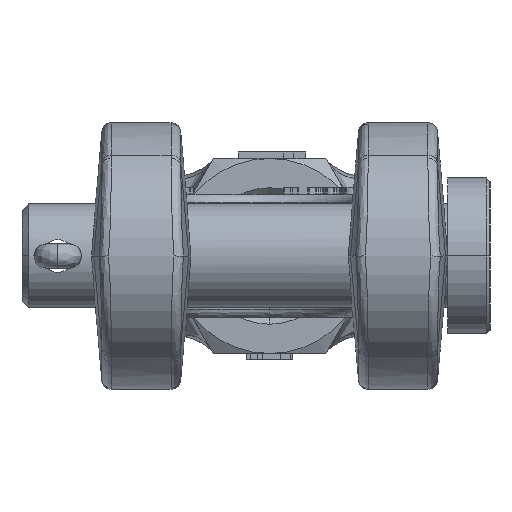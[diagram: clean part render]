
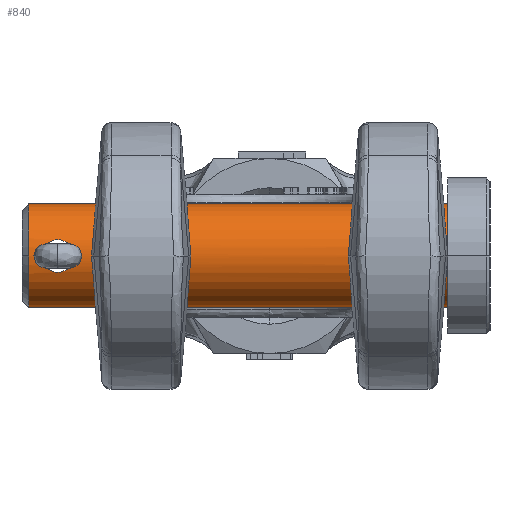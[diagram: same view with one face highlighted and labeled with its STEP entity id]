
A CAD part, left-side view. The second image highlights one B-rep face of the part: STEP entity #840.
In plain terms, the highlighted cylindrical face has radius 8 mm (diameter 16 mm), a partial arc.
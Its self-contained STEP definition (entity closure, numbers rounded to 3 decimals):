
#840=ADVANCED_FACE('',(#2594,#2595),#2596,.T.);
#2594=FACE_BOUND('',#22210,.T.);
#2595=FACE_OUTER_BOUND('',#22211,.T.);
#2596=CYLINDRICAL_SURFACE('',#22212,8.0);
#22210=EDGE_LOOP('',(#35843,#35844,#35845));
#22211=EDGE_LOOP('',(#35846,#35847,#35848,#35849,#35850));
#22212=AXIS2_PLACEMENT_3D('',#35851,#35852,#35853);
#35843=ORIENTED_EDGE('',*,*,#40081,.F.);
#35844=ORIENTED_EDGE('',*,*,#40082,.F.);
#35845=ORIENTED_EDGE('',*,*,#40077,.F.);
#35846=ORIENTED_EDGE('',*,*,#40083,.F.);
#35847=ORIENTED_EDGE('',*,*,#40084,.F.);
#35848=ORIENTED_EDGE('',*,*,#40085,.F.);
#35849=ORIENTED_EDGE('',*,*,#40086,.F.);
#35850=ORIENTED_EDGE('',*,*,#40075,.F.);
#35851=CARTESIAN_POINT('',(-92.144,87.839,150.985));
#35852=DIRECTION('',(0.0,-1.0,0.0));
#35853=DIRECTION('',(0.0,0.0,-1.0));
#40075=EDGE_CURVE('',#43776,#43770,#43778,.T.);
#40077=EDGE_CURVE('',#43779,#43782,#43783,.T.);
#40081=EDGE_CURVE('',#43789,#43779,#43790,.T.);
#40082=EDGE_CURVE('',#43782,#43789,#43791,.T.);
#40083=EDGE_CURVE('',#43792,#43776,#43793,.T.);
#40084=EDGE_CURVE('',#43794,#43792,#43795,.T.);
#40085=EDGE_CURVE('',#43796,#43794,#43797,.T.);
#40086=EDGE_CURVE('',#43770,#43796,#43798,.T.);
#43770=VERTEX_POINT('',#57047);
#43776=VERTEX_POINT('',#57055);
#43778=CIRCLE('',#57057,8.0);
#43779=VERTEX_POINT('',#57058);
#43782=VERTEX_POINT('',#57062);
#43783=B_SPLINE_CURVE_WITH_KNOTS('',3,(#57063,#57064,#57065,#57066,#57067,#57068,#57069,#57070,#57071,#57072,#57073,#57074,#57075,#57076,#57077,#57078,#57079,#57080,#57081,#57082,#57083,#57084,#57085,#57086,#57087,#57088,#57089,#57090,#57091,#57092,#57093,#57094),.UNSPECIFIED.,.F.,.F.,(4,2,2,2,2,2,2,2,2,2,2,2,2,2,2,4),(0.004,0.004,0.004,0.005,0.005,0.006,0.007,0.007,0.008,0.008,0.009,0.009,0.01,0.011,0.011,0.012),.UNSPECIFIED.);
#43789=VERTEX_POINT('',#57133);
#43790=B_SPLINE_CURVE_WITH_KNOTS('',3,(#57134,#57135,#57136,#57137,#57138,#57139,#57140,#57141,#57142,#57143,#57144,#57145,#57146,#57147,#57148,#57149),.UNSPECIFIED.,.F.,.F.,(4,2,2,2,2,2,2,4),(0.,0.,0.001,0.001,0.002,0.003,0.003,0.004),.UNSPECIFIED.);
#43791=B_SPLINE_CURVE_WITH_KNOTS('',3,(#57150,#57151,#57152,#57153,#57154,#57155,#57156,#57157,#57158,#57159,#57160,#57161,#57162,#57163,#57164,#57165,#57166,#57167),.UNSPECIFIED.,.F.,.F.,(4,2,2,2,2,2,2,2,4),(0.012,0.012,0.012,0.013,0.013,0.014,0.015,0.015,0.016),.UNSPECIFIED.);
#43792=VERTEX_POINT('',#57168);
#43793=LINE('',#57169,#57170);
#43794=VERTEX_POINT('',#57171);
#43795=CIRCLE('',#57172,8.0);
#43796=VERTEX_POINT('',#57173);
#43797=LINE('',#57174,#57175);
#43798=CIRCLE('',#57176,8.0);
#57047=CARTESIAN_POINT('',(-100.144,152.339,150.985));
#57055=CARTESIAN_POINT('',(-92.144,152.339,142.985));
#57057=AXIS2_PLACEMENT_3D('',#64992,#64993,#64994);
#57058=CARTESIAN_POINT('',(-99.744,147.839,148.485));
#57062=CARTESIAN_POINT('',(-99.744,147.839,153.485));
#57063=CARTESIAN_POINT('',(-99.744,147.839,148.485));
#57064=CARTESIAN_POINT('',(-99.744,147.839,148.485));
#57065=CARTESIAN_POINT('',(-99.744,147.839,148.485));
#57066=CARTESIAN_POINT('',(-99.744,147.673,148.485));
#57067=CARTESIAN_POINT('',(-99.749,147.509,148.502));
#57068=CARTESIAN_POINT('',(-99.77,147.189,148.566));
#57069=CARTESIAN_POINT('',(-99.785,147.029,148.614));
#57070=CARTESIAN_POINT('',(-99.823,146.727,148.74));
#57071=CARTESIAN_POINT('',(-99.845,146.584,148.817));
#57072=CARTESIAN_POINT('',(-99.894,146.313,148.998));
#57073=CARTESIAN_POINT('',(-99.921,146.186,149.103));
#57074=CARTESIAN_POINT('',(-99.998,145.843,149.446));
#57075=CARTESIAN_POINT('',(-100.05,145.657,149.723));
#57076=CARTESIAN_POINT('',(-100.104,145.469,150.173));
#57077=CARTESIAN_POINT('',(-100.119,145.42,150.331));
#57078=CARTESIAN_POINT('',(-100.139,145.355,150.655));
#57079=CARTESIAN_POINT('',(-100.144,145.339,150.819));
#57080=CARTESIAN_POINT('',(-100.144,145.339,151.152));
#57081=CARTESIAN_POINT('',(-100.139,145.355,151.315));
#57082=CARTESIAN_POINT('',(-100.12,145.419,151.636));
#57083=CARTESIAN_POINT('',(-100.105,145.468,151.795));
#57084=CARTESIAN_POINT('',(-100.068,145.594,152.097));
#57085=CARTESIAN_POINT('',(-100.047,145.671,152.24));
#57086=CARTESIAN_POINT('',(-99.999,145.852,152.511));
#57087=CARTESIAN_POINT('',(-99.973,145.957,152.638));
#57088=CARTESIAN_POINT('',(-99.895,146.3,152.982));
#57089=CARTESIAN_POINT('',(-99.842,146.577,153.168));
#57090=CARTESIAN_POINT('',(-99.786,147.027,153.355));
#57091=CARTESIAN_POINT('',(-99.77,147.185,153.404));
#57092=CARTESIAN_POINT('',(-99.749,147.509,153.469));
#57093=CARTESIAN_POINT('',(-99.744,147.673,153.485));
#57094=CARTESIAN_POINT('',(-99.744,147.839,153.485));
#57133=CARTESIAN_POINT('',(-100.144,150.339,150.985));
#57134=CARTESIAN_POINT('',(-100.144,150.339,150.985));
#57135=CARTESIAN_POINT('',(-100.144,150.339,150.819));
#57136=CARTESIAN_POINT('',(-100.139,150.323,150.656));
#57137=CARTESIAN_POINT('',(-100.12,150.258,150.335));
#57138=CARTESIAN_POINT('',(-100.105,150.21,150.176));
#57139=CARTESIAN_POINT('',(-100.068,150.084,149.874));
#57140=CARTESIAN_POINT('',(-100.047,150.007,149.73));
#57141=CARTESIAN_POINT('',(-99.999,149.826,149.46));
#57142=CARTESIAN_POINT('',(-99.973,149.721,149.332));
#57143=CARTESIAN_POINT('',(-99.895,149.378,148.989));
#57144=CARTESIAN_POINT('',(-99.842,149.101,148.803));
#57145=CARTESIAN_POINT('',(-99.786,148.651,148.615));
#57146=CARTESIAN_POINT('',(-99.77,148.493,148.567));
#57147=CARTESIAN_POINT('',(-99.749,148.169,148.502));
#57148=CARTESIAN_POINT('',(-99.744,148.005,148.485));
#57149=CARTESIAN_POINT('',(-99.744,147.839,148.485));
#57150=CARTESIAN_POINT('',(-99.744,147.839,153.485));
#57151=CARTESIAN_POINT('',(-99.744,147.839,153.485));
#57152=CARTESIAN_POINT('',(-99.744,147.839,153.485));
#57153=CARTESIAN_POINT('',(-99.744,148.005,153.485));
#57154=CARTESIAN_POINT('',(-99.749,148.168,153.469));
#57155=CARTESIAN_POINT('',(-99.77,148.489,153.405));
#57156=CARTESIAN_POINT('',(-99.785,148.648,153.356));
#57157=CARTESIAN_POINT('',(-99.823,148.95,153.231));
#57158=CARTESIAN_POINT('',(-99.845,149.094,153.154));
#57159=CARTESIAN_POINT('',(-99.894,149.364,152.973));
#57160=CARTESIAN_POINT('',(-99.921,149.492,152.868));
#57161=CARTESIAN_POINT('',(-99.998,149.835,152.525));
#57162=CARTESIAN_POINT('',(-100.05,150.021,152.248));
#57163=CARTESIAN_POINT('',(-100.104,150.209,151.797));
#57164=CARTESIAN_POINT('',(-100.119,150.258,151.639));
#57165=CARTESIAN_POINT('',(-100.139,150.323,151.315));
#57166=CARTESIAN_POINT('',(-100.144,150.339,151.151));
#57167=CARTESIAN_POINT('',(-100.144,150.339,150.985));
#57168=CARTESIAN_POINT('',(-92.144,87.839,142.985));
#57169=CARTESIAN_POINT('',(-92.144,87.839,142.985));
#57170=VECTOR('',#64997,1.0);
#57171=CARTESIAN_POINT('',(-92.144,87.839,158.985));
#57172=AXIS2_PLACEMENT_3D('',#64998,#64999,#65000);
#57173=CARTESIAN_POINT('',(-92.144,152.339,158.985));
#57174=CARTESIAN_POINT('',(-92.144,87.839,158.985));
#57175=VECTOR('',#65001,1.0);
#57176=AXIS2_PLACEMENT_3D('',#65002,#65003,#65004);
#64992=CARTESIAN_POINT('',(-92.144,152.339,150.985));
#64993=DIRECTION('',(-0.0,1.0,0.0));
#64994=DIRECTION('',(1.0,0.0,0.0));
#64997=DIRECTION('',(-0.0,1.0,-0.0));
#64998=CARTESIAN_POINT('',(-92.144,87.839,150.985));
#64999=DIRECTION('',(0.0,-1.0,0.0));
#65000=DIRECTION('',(0.0,0.0,-1.0));
#65001=DIRECTION('',(0.0,-1.0,0.0));
#65002=CARTESIAN_POINT('',(-92.144,152.339,150.985));
#65003=DIRECTION('',(-0.0,1.0,0.0));
#65004=DIRECTION('',(1.0,0.0,0.0));
